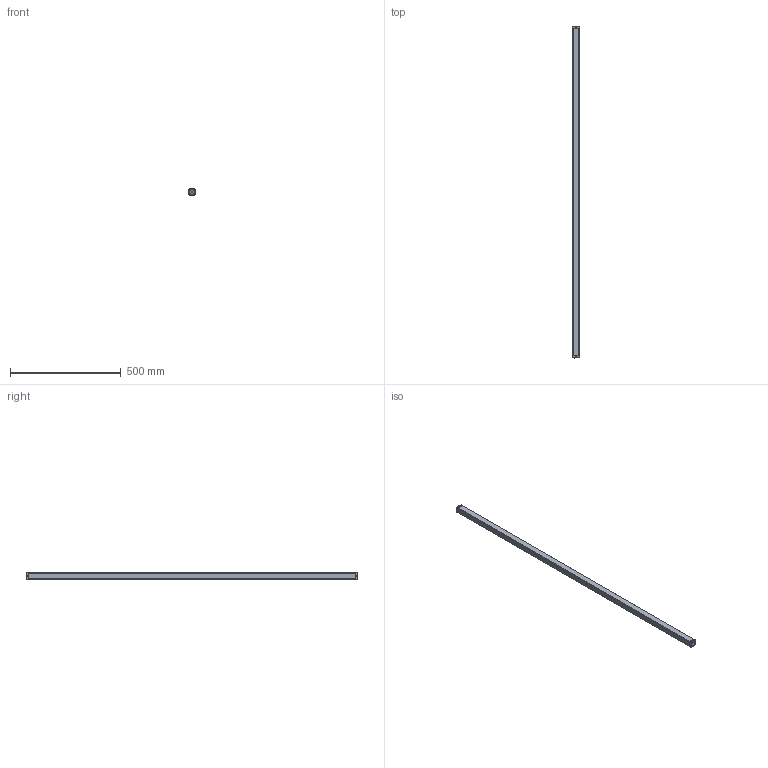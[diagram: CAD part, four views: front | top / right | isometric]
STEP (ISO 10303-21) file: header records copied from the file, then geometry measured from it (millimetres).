
FILE_DESCRIPTION((''),'2;1');
FILE_NAME('ELD00_ASM','2021-07-20T09:58:22',('18720616900'),(''),'CREO PARAMETRIC BY PTC INC, 2019010','CREO PARAMETRIC BY PTC INC, 2019010','');
FILE_SCHEMA(('CONFIG_CONTROL_DESIGN'));
Length unit declared in the file: millimetre
Products named in the file (6): ELD--00; ELD--000; ST-3-12; ELD00_ASM
Assembly tree (12 placements, depth 2):
  ELD00_ASM
    ELD--00
    ELD--000
    ELD--000
    ELD--000
    ST-3-12  x8
Bounding box: 28 x 1502 x 28 mm (x, y, z)
Volume: 1173417.5 mm3; surface area: 242313.1 mm2
Topology: 12 solids, 12 shells, 792 faces, 2082 edges, 1296 vertices
Faces by surface type: plane 236, cone 172, bspline 168, cylinder 156, torus 44, sphere 16
Entity records: 14414 total; most frequent: CARTESIAN_POINT 6863, ORIENTED_EDGE 1584, DIRECTION 1469, EDGE_CURVE 792, AXIS2_PLACEMENT_3D 520, VERTEX_POINT 491, VECTOR 429, LINE 429
